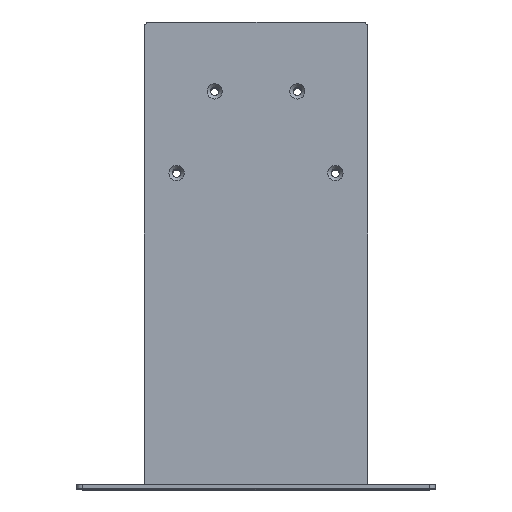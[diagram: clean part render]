
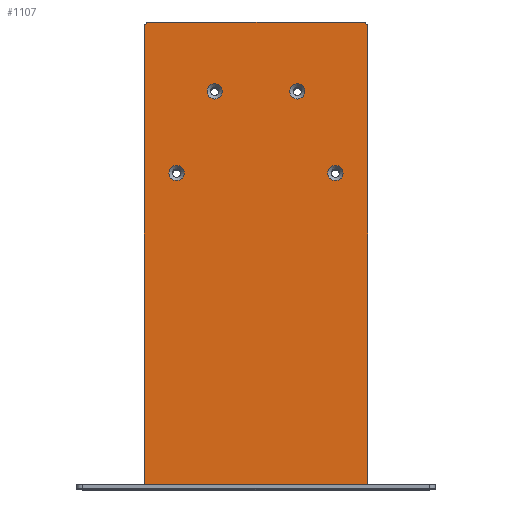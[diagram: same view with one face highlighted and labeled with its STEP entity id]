
A CAD part, top view. The second image highlights one B-rep face of the part: STEP entity #1107.
In plain terms, the highlighted planar face has unit normal (0, 0, 1).
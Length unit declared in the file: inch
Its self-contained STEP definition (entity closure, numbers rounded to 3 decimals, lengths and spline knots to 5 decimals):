
#47=FACE_BOUND('',#246,.T.);
#48=FACE_BOUND('',#247,.T.);
#49=FACE_BOUND('',#248,.T.);
#50=FACE_BOUND('',#249,.T.);
#117=CIRCLE('',#1175,0.125);
#118=CIRCLE('',#1176,0.125);
#119=CIRCLE('',#1177,0.17);
#120=CIRCLE('',#1178,0.17);
#121=CIRCLE('',#1179,0.17);
#122=CIRCLE('',#1180,0.17);
#187=FACE_OUTER_BOUND('',#245,.T.);
#245=EDGE_LOOP('',(#751,#752,#753,#754,#755,#756));
#246=EDGE_LOOP('',(#757));
#247=EDGE_LOOP('',(#758));
#248=EDGE_LOOP('',(#759));
#249=EDGE_LOOP('',(#760));
#379=LINE('',#1653,#447);
#380=LINE('',#1657,#448);
#381=LINE('',#1660,#449);
#382=LINE('',#1661,#450);
#447=VECTOR('',#1318,10.187);
#448=VECTOR('',#1321,4.742);
#449=VECTOR('',#1324,10.187);
#450=VECTOR('',#1325,4.992);
#509=VERTEX_POINT('',#1637);
#514=VERTEX_POINT('',#1648);
#515=VERTEX_POINT('',#1652);
#516=VERTEX_POINT('',#1654);
#517=VERTEX_POINT('',#1656);
#518=VERTEX_POINT('',#1658);
#519=VERTEX_POINT('',#1662);
#520=VERTEX_POINT('',#1664);
#521=VERTEX_POINT('',#1666);
#522=VERTEX_POINT('',#1668);
#615=EDGE_CURVE('',#509,#515,#379,.T.);
#616=EDGE_CURVE('',#516,#515,#117,.T.);
#617=EDGE_CURVE('',#517,#516,#380,.T.);
#618=EDGE_CURVE('',#518,#517,#118,.T.);
#619=EDGE_CURVE('',#514,#518,#381,.T.);
#620=EDGE_CURVE('',#514,#509,#382,.T.);
#621=EDGE_CURVE('',#519,#519,#119,.T.);
#622=EDGE_CURVE('',#520,#520,#120,.T.);
#623=EDGE_CURVE('',#521,#521,#121,.T.);
#624=EDGE_CURVE('',#522,#522,#122,.T.);
#751=ORIENTED_EDGE('',*,*,#615,.T.);
#752=ORIENTED_EDGE('',*,*,#616,.F.);
#753=ORIENTED_EDGE('',*,*,#617,.F.);
#754=ORIENTED_EDGE('',*,*,#618,.F.);
#755=ORIENTED_EDGE('',*,*,#619,.F.);
#756=ORIENTED_EDGE('',*,*,#620,.T.);
#757=ORIENTED_EDGE('',*,*,#621,.T.);
#758=ORIENTED_EDGE('',*,*,#622,.T.);
#759=ORIENTED_EDGE('',*,*,#623,.T.);
#760=ORIENTED_EDGE('',*,*,#624,.T.);
#1017=PLANE('',#1174);
#1107=ADVANCED_FACE('',(#187,#47,#48,#49,#50),#1017,.T.);
#1174=AXIS2_PLACEMENT_3D('',#1651,#1316,#1317);
#1175=AXIS2_PLACEMENT_3D('',#1655,#1319,#1320);
#1176=AXIS2_PLACEMENT_3D('',#1659,#1322,#1323);
#1177=AXIS2_PLACEMENT_3D('',#1663,#1326,#1327);
#1178=AXIS2_PLACEMENT_3D('',#1665,#1328,#1329);
#1179=AXIS2_PLACEMENT_3D('',#1667,#1330,#1331);
#1180=AXIS2_PLACEMENT_3D('',#1669,#1332,#1333);
#1316=DIRECTION('center_axis',(0.,0.,
1.));
#1317=DIRECTION('ref_axis',(0.,1.,0.));
#1318=DIRECTION('',(0.,1.,0.));
#1319=DIRECTION('center_axis',(0.,0.,
-1.));
#1320=DIRECTION('ref_axis',(0.707,0.707,0.));
#1321=DIRECTION('',(1.,0.,0.));
#1322=DIRECTION('center_axis',(0.,0.,
-1.));
#1323=DIRECTION('ref_axis',(-0.707,0.707,0.));
#1324=DIRECTION('',(0.,1.,0.));
#1325=DIRECTION('',(1.,0.,0.));
#1326=DIRECTION('center_axis',(0.,0.,
-1.));
#1327=DIRECTION('ref_axis',(0.,1.,0.));
#1328=DIRECTION('center_axis',(0.,0.,
-1.));
#1329=DIRECTION('ref_axis',(0.,1.,0.));
#1330=DIRECTION('center_axis',(0.,0.,
-1.));
#1331=DIRECTION('ref_axis',(0.,1.,0.));
#1332=DIRECTION('center_axis',(0.,0.,
-1.));
#1333=DIRECTION('ref_axis',(0.,1.,0.));
#1637=CARTESIAN_POINT('',(6.496,0.492,17.72));
#1648=CARTESIAN_POINT('',(1.504,0.492,17.72));
#1651=CARTESIAN_POINT('Origin',(4.,4.83403,17.72));
#1652=CARTESIAN_POINT('',(6.496,10.679,17.72));
#1653=CARTESIAN_POINT('',(6.496,3.11752,17.72));
#1654=CARTESIAN_POINT('',(6.371,10.804,17.72));
#1655=CARTESIAN_POINT('Origin',(6.371,10.679,17.72));
#1656=CARTESIAN_POINT('',(1.629,10.804,17.72));
#1657=CARTESIAN_POINT('',(6.496,10.804,17.72));
#1658=CARTESIAN_POINT('',(1.504,10.679,17.72));
#1659=CARTESIAN_POINT('Origin',(1.629,10.679,17.72));
#1660=CARTESIAN_POINT('',(1.504,10.804,17.72));
#1661=CARTESIAN_POINT('',(6.,0.492,17.72));
#1662=CARTESIAN_POINT('',(2.229,7.604,17.72));
#1663=CARTESIAN_POINT('Origin',(2.229,7.434,17.72));
#1664=CARTESIAN_POINT('',(5.771,7.604,17.72));
#1665=CARTESIAN_POINT('Origin',(5.771,7.434,17.72));
#1666=CARTESIAN_POINT('',(4.922,9.427,17.72));
#1667=CARTESIAN_POINT('Origin',(4.922,9.257,17.72));
#1668=CARTESIAN_POINT('',(3.078,9.427,17.72));
#1669=CARTESIAN_POINT('Origin',(3.078,9.257,17.72));
